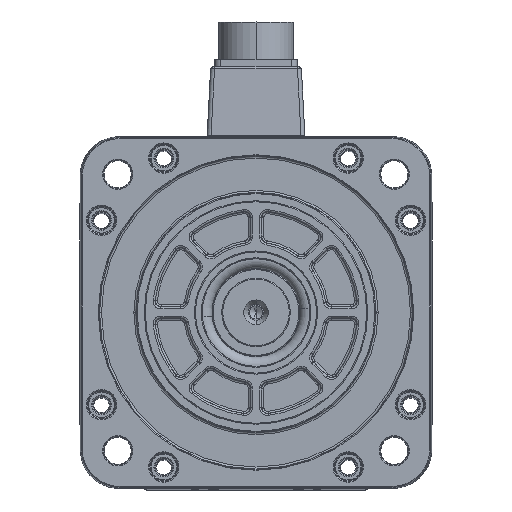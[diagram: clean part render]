
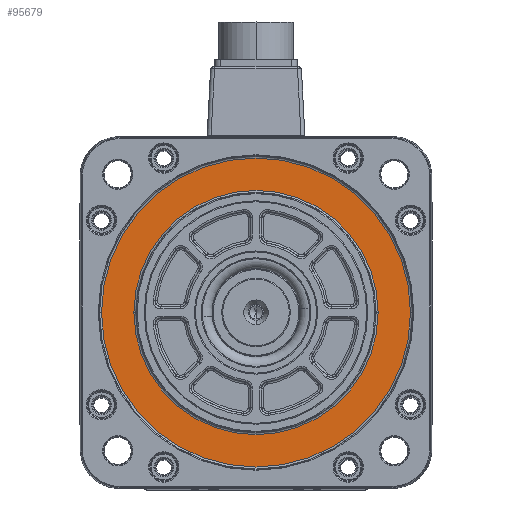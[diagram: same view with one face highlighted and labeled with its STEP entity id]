
A CAD part, top view. The second image highlights one B-rep face of the part: STEP entity #95679.
In plain terms, the highlighted planar face has unit normal (0, 0, 1).
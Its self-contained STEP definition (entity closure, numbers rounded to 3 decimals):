
#4930 = CARTESIAN_POINT ( 'NONE',  ( 0., 0., 15. ) ) ;
#7140 = CIRCLE ( 'NONE', #84917, 62.466 ) ;
#11342 = DIRECTION ( 'NONE',  ( 1., 0., 0. ) ) ;
#16482 = CARTESIAN_POINT ( 'NONE',  ( 0., 0., 15. ) ) ;
#17446 = DIRECTION ( 'NONE',  ( 0., 0., 1. ) ) ;
#17465 = EDGE_CURVE ( 'NONE', #94494, #71151, #18236, .T. ) ;
#17643 = EDGE_LOOP ( 'NONE', ( #136751, #86823 ) ) ;
#18236 = CIRCLE ( 'NONE', #69411, 79.034 ) ;
#22190 = PLANE ( 'NONE',  #61701 ) ;
#34046 = FACE_OUTER_BOUND ( 'NONE', #17643, .T. ) ;
#37984 = VERTEX_POINT ( 'NONE', #116811 ) ;
#51775 = DIRECTION ( 'NONE',  ( 0., 0., -1. ) ) ;
#52349 = EDGE_CURVE ( 'NONE', #71151, #94494, #112912, .T. ) ;
#55067 = AXIS2_PLACEMENT_3D ( 'NONE', #4930, #17446, #69681 ) ;
#61701 = AXIS2_PLACEMENT_3D ( 'NONE', #76497, #127953, #95977 ) ;
#65117 = CARTESIAN_POINT ( 'NONE',  ( 79.034, 0., 15. ) ) ;
#66201 = CARTESIAN_POINT ( 'NONE',  ( -79.034, 0., 15. ) ) ;
#66373 = AXIS2_PLACEMENT_3D ( 'NONE', #16482, #70088, #112508 ) ;
#69411 = AXIS2_PLACEMENT_3D ( 'NONE', #105560, #106234, #118759 ) ;
#69681 = DIRECTION ( 'NONE',  ( 1., 0., 0. ) ) ;
#70088 = DIRECTION ( 'NONE',  ( 0., 0., -1. ) ) ;
#71151 = VERTEX_POINT ( 'NONE', #65117 ) ;
#74692 = CARTESIAN_POINT ( 'NONE',  ( 0., 0., 15. ) ) ;
#75104 = ORIENTED_EDGE ( 'NONE', *, *, #110150, .T. ) ;
#76497 = CARTESIAN_POINT ( 'NONE',  ( 0., 0., 15. ) ) ;
#77492 = CIRCLE ( 'NONE', #66373, 62.466 ) ;
#84917 = AXIS2_PLACEMENT_3D ( 'NONE', #74692, #51775, #11342 ) ;
#86823 = ORIENTED_EDGE ( 'NONE', *, *, #17465, .T. ) ;
#94494 = VERTEX_POINT ( 'NONE', #66201 ) ;
#95679 = ADVANCED_FACE ( 'NONE', ( #34046, #128631 ), #22190, .T. ) ;
#95977 = DIRECTION ( 'NONE',  ( 1., 0., 0. ) ) ;
#103618 = ORIENTED_EDGE ( 'NONE', *, *, #116004, .T. ) ;
#105560 = CARTESIAN_POINT ( 'NONE',  ( 0., 0., 15. ) ) ;
#106234 = DIRECTION ( 'NONE',  ( 0., 0., 1. ) ) ;
#109050 = VERTEX_POINT ( 'NONE', #117237 ) ;
#110150 = EDGE_CURVE ( 'NONE', #109050, #37984, #77492, .T. ) ;
#112508 = DIRECTION ( 'NONE',  ( 1., 0., 0. ) ) ;
#112912 = CIRCLE ( 'NONE', #55067, 79.034 ) ;
#116004 = EDGE_CURVE ( 'NONE', #37984, #109050, #7140, .T. ) ;
#116811 = CARTESIAN_POINT ( 'NONE',  ( 62.466, 0., 15. ) ) ;
#117237 = CARTESIAN_POINT ( 'NONE',  ( -62.466, 0., 15. ) ) ;
#118759 = DIRECTION ( 'NONE',  ( 1., 0., 0. ) ) ;
#127953 = DIRECTION ( 'NONE',  ( 0., 0., 1. ) ) ;
#128631 = FACE_BOUND ( 'NONE', #134148, .T. ) ;
#134148 = EDGE_LOOP ( 'NONE', ( #103618, #75104 ) ) ;
#136751 = ORIENTED_EDGE ( 'NONE', *, *, #52349, .T. ) ;
